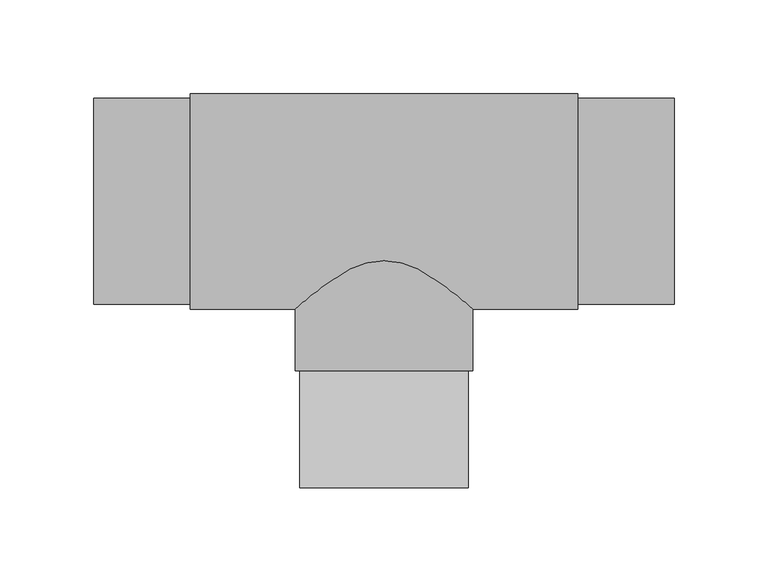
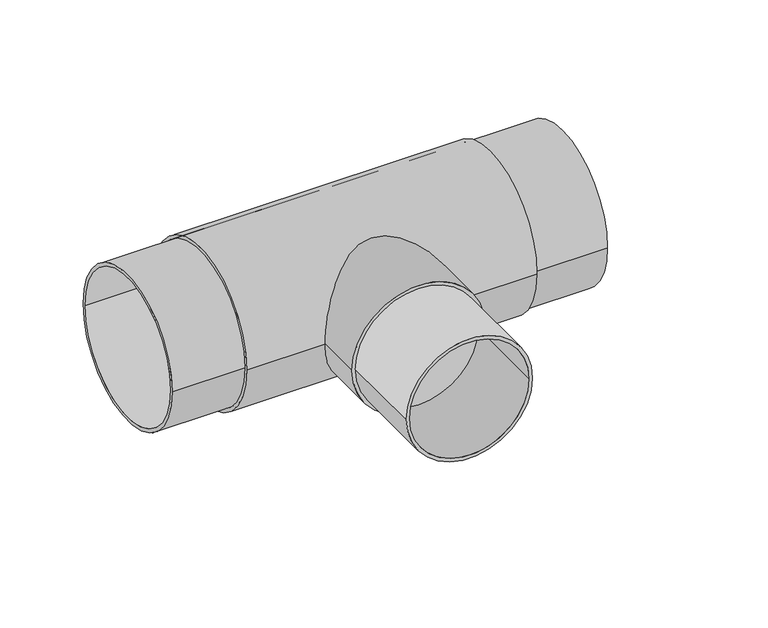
"""IFC4 building model written with IfcOpenShell, lengths in millimetres: pipe fitting geometry, EGB_VASEN_ PPR_Te a tope WXRB300_Te reducida a tope WXRB310 : Te a tope."""

from ifc_helpers import new_model, si_unit, point, frame, origin, origin_2d, place, context, project, spatial, circle_curve, trimmed, segment, composite_curve, outline, extrude, source, transform, mapped, element, save


def pipe_fitting_4cc0d667(model_context):
    return source(origin(), model_context, "Body", "SweptSolid", [
        extrude(outline(composite_curve([segment(trimmed(circle_curve(origin_2d(), 45.0), [point((0.0, 45.0))], [point((0.0, -45.0))], False, "CARTESIAN"), True, "CONTINUOUS"), segment(trimmed(circle_curve(origin_2d(), 45.0), [point((0.0, -45.0))], [point((0.0, 45.0))], False, "CARTESIAN"), True, "CONTINUOUS")], self_intersect=False), holes=[composite_curve([segment(trimmed(circle_curve(origin_2d(), 42.5), [point((0.0, 42.5))], [point((0.0, -42.5))], True, "CARTESIAN"), True, "CONTINUOUS"), segment(trimmed(circle_curve(origin_2d(), 42.5), [point((0.0, -42.5))], [point((0.0, 42.5))], True, "CARTESIAN"), True, "CONTINUOUS")], self_intersect=False)]), frame((0.0, -153.0, 0.0), z_axis=(0.0, 1.0, 0.0), x_axis=(0.0, 0.0, 1.0)), (0.0, 0.0, 1.0), 62.5),
        extrude(outline(composite_curve([segment(trimmed(circle_curve(origin_2d(), 47.5), [point((0.0, 47.5))], [point((0.0, -47.5))], False, "CARTESIAN"), True, "CONTINUOUS"), segment(trimmed(circle_curve(origin_2d(), 47.5), [point((0.0, -47.5))], [point((0.0, 47.5))], False, "CARTESIAN"), True, "CONTINUOUS")], self_intersect=False)), frame((0.0, -90.5, 0.0), z_axis=(0.0, 1.0, 0.0), x_axis=(0.0, 0.0, 1.0)), (0.0, 0.0, 1.0), 90.5),
        extrude(outline(composite_curve([segment(trimmed(circle_curve(origin_2d(), 57.5), [point((-57.5, 0.0))], [point((57.5, 0.0))], False, "CARTESIAN"), True, "CONTINUOUS"), segment(trimmed(circle_curve(origin_2d(), 57.5), [point((57.5, 0.0))], [point((-57.5, 0.0))], False, "CARTESIAN"), True, "CONTINUOUS")], self_intersect=False), holes=[composite_curve([segment(trimmed(circle_curve(origin_2d(), 55.0), [point((-55.0, 0.0))], [point((55.0, 0.0))], True, "CARTESIAN"), True, "CONTINUOUS"), segment(trimmed(circle_curve(origin_2d(), 55.0), [point((55.0, 0.0))], [point((-55.0, 0.0))], True, "CARTESIAN"), True, "CONTINUOUS")], self_intersect=False)]), frame((-103.3333333, 0.0, 0.0), z_axis=(1.0, 0.0, 0.0), x_axis=(0.0, 1.0, 0.0)), (0.0, 0.0, 1.0), 206.6666667),
        extrude(outline(composite_curve([segment(trimmed(circle_curve(origin_2d(), 55.0), [point((-55.0, 0.0))], [point((55.0, 0.0))], False, "CARTESIAN"), True, "CONTINUOUS"), segment(trimmed(circle_curve(origin_2d(), 55.0), [point((55.0, 0.0))], [point((-55.0, 0.0))], False, "CARTESIAN"), True, "CONTINUOUS")], self_intersect=False), holes=[composite_curve([segment(trimmed(circle_curve(origin_2d(), 52.5), [point((-52.5, 0.0))], [point((52.5, 0.0))], True, "CARTESIAN"), True, "CONTINUOUS"), segment(trimmed(circle_curve(origin_2d(), 52.5), [point((52.5, 0.0))], [point((-52.5, 0.0))], True, "CARTESIAN"), True, "CONTINUOUS")], self_intersect=False)]), frame((-155.0, 0.0, 0.0), z_axis=(1.0, 0.0, 0.0), x_axis=(0.0, 1.0, 0.0)), (0.0, 0.0, 1.0), 310.0),
    ])


if __name__ == "__main__":
    model = new_model("IFC4")
    model_context = context("Model", 3, world=origin())
    ifc_project = project(units=[si_unit("LENGTHUNIT", "METRE", prefix="MILLI")], contexts=[model_context])
    site = spatial("IfcSite", under=ifc_project)
    building = spatial("IfcBuilding", under=site)
    placement = place(None, origin())
    pipe_fitting_shape = pipe_fitting_4cc0d667(model_context)
    element("IfcPipeFitting", 1, ObjectType="EGB_VASEN_ PPR_Te a tope WXRB300_Te reducida a tope WXRB310 : Te a tope", at=placement, inside=building, context=model_context, shape_type="MappedRepresentation", body=[
        mapped(pipe_fitting_shape, transform((0.0, 0.0, 0.0), x_axis=(1.0, 0.0, 0.0), y_axis=(0.0, 1.0, 0.0), z_axis=(0.0, 0.0, 1.0))),
    ])
    save(model, "model.ifc")
